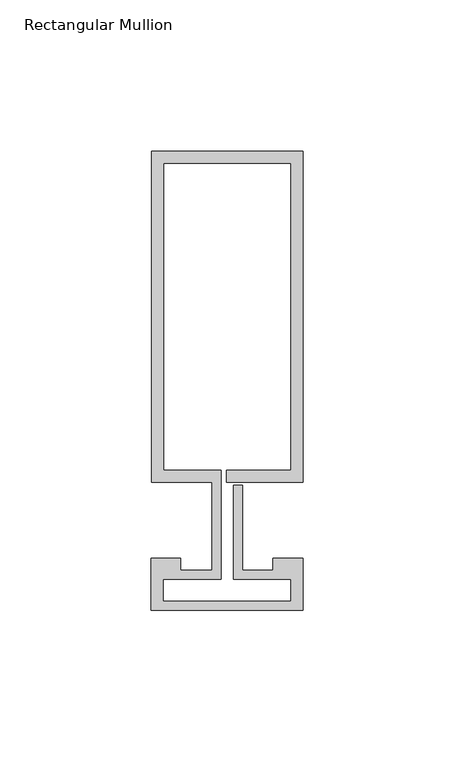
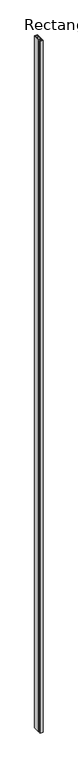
"""IFC4 building model written with IfcOpenShell, lengths in millimetres: member geometry, Rectangular Mullion : Reynaers_CW-50_Mullion-Transom_Horizontal_109.4mm_Facecap-02B."""

from ifc_helpers import new_model, si_unit, frame, origin, place, context, project, spatial, polyline, outline, extrude, source, transform, mapped, element, save


def rectangular_mullion_4c3bc3ec(model_context):
    return source(origin(), model_context, "Body", "SweptSolid", [
        extrude(outline(polyline([(-24.8004059, 121.9), (25.1995941, 121.9), (25.1995941, 12.5), (0.0, 12.5), (0.0, 16.5), (21.1995941, 16.5), (21.1995941, 117.9), (-20.8004059, 117.9), (-20.8004059, 16.5), (-1.9004059, 16.5), (-1.9004059, -19.5), (-20.994845, -19.5), (-20.994845, -26.7191338), (21.1995941, -26.7191338), (21.1995941, -19.5), (2.2995941, -19.5), (2.2995941, 11.5), (5.2995941, 11.5), (5.2995941, -16.5), (15.2996495, -16.5), (15.2996495, -12.5), (25.1995941, -12.5), (25.1995941, -29.8), (-24.994845, -29.8), (-24.994845, -12.5), (-15.2996495, -12.5), (-15.2996495, -16.5), (-4.9004059, -16.5), (-4.9004059, 12.5), (-24.8004059, 12.5), (-24.8004059, 121.9)])), frame((0.0, 0.0, -12000.0), z_axis=(0.0, 0.0, 1.0), x_axis=(1.0, 0.0, 0.0)), (0.0, 0.0, 1.0), 12000.0),
    ])


if __name__ == "__main__":
    model = new_model("IFC4")
    model_context = context("Model", 3, world=origin())
    ifc_project = project(units=[si_unit("LENGTHUNIT", "METRE", prefix="MILLI")], contexts=[model_context])
    site = spatial("IfcSite", under=ifc_project)
    building = spatial("IfcBuilding", under=site)
    placement = place(None, origin())
    rectangular_mullion_shape = rectangular_mullion_4c3bc3ec(model_context)
    element("IfcMember", 1, ObjectType="Rectangular Mullion : Reynaers_CW-50_Mullion-Transom_Horizontal_109.4mm_Facecap-02B", at=placement, inside=building, context=model_context, shape_type="MappedRepresentation", body=[
        mapped(rectangular_mullion_shape, transform((0.0, 0.0, 0.0), x_axis=(1.0, 0.0, 0.0), y_axis=(0.0, 1.0, 0.0), z_axis=(0.0, 0.0, 1.0))),
    ])
    save(model, "model.ifc")
